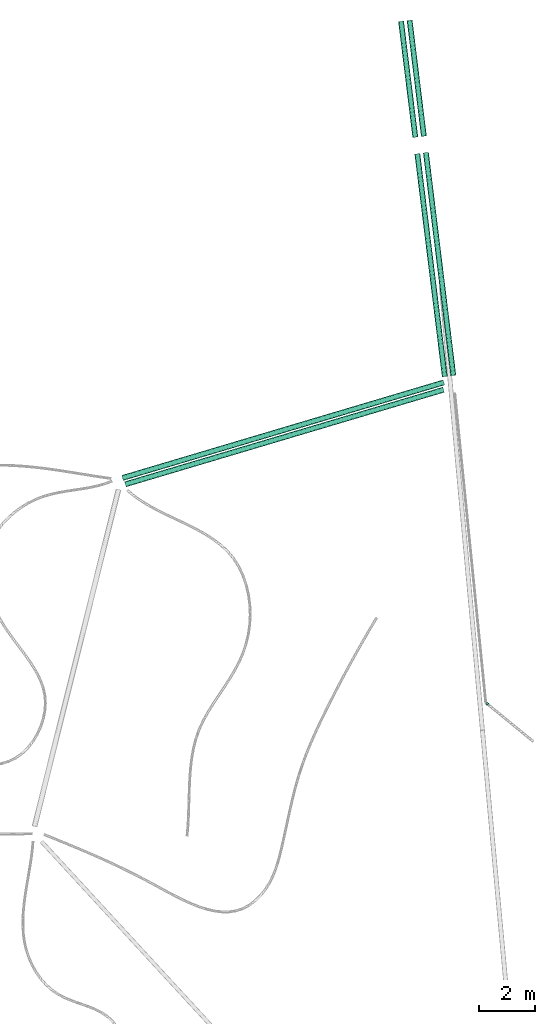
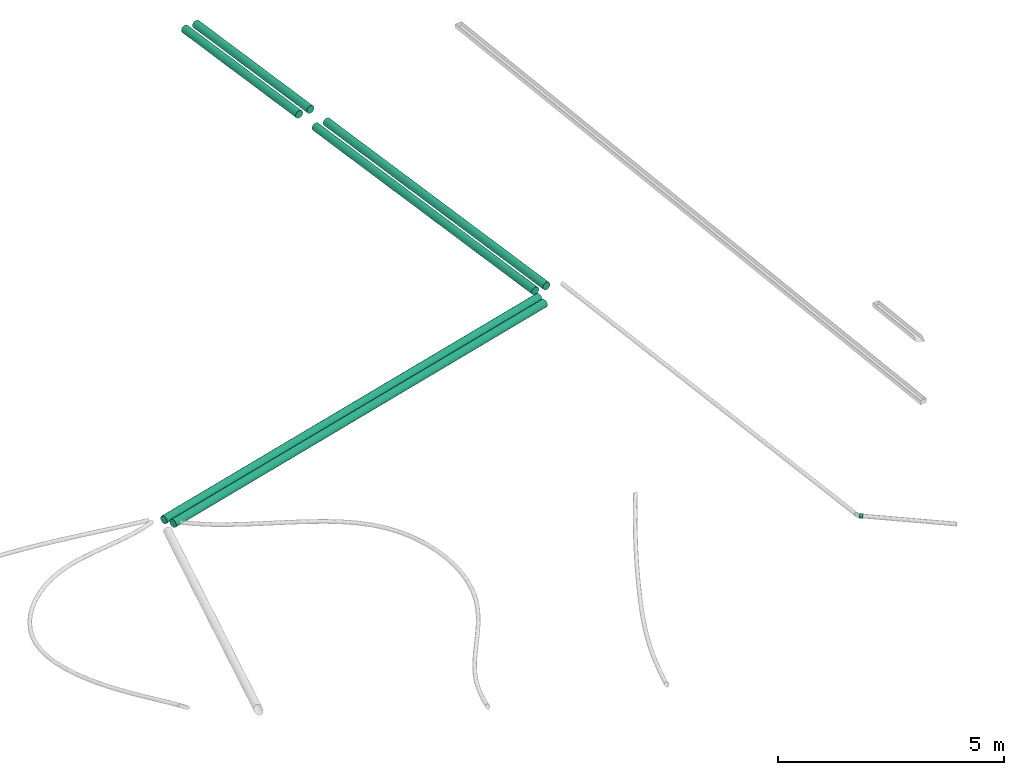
# One storey, part 3 of 8: 6 flow segments, 1 flow fitting.
"""IFC2X3 building model written with IfcOpenShell, lengths in centimetres."""

from ifc_helpers import new_model, entity, si_unit, converted_unit, derived_unit, direction, frame, frame_2d, origin, origin_2d_with_axis, place, context, subcontext, project, spatial, circle, extrude, faceted_brep, source, transform, mapped, material, type_object, type_shapes, element, save


model = new_model("IFC2X3")

# Units and contexts
model_context = context("Model", 3, precision=0.001, world=origin(), true_north=direction((6.12303176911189e-17, 1.0)))
body_context = subcontext(model_context, "Body", "Model", "MODEL_VIEW")
ifc_project = project(units=[si_unit("LENGTHUNIT", "METRE", prefix="CENTI"), si_unit("AREAUNIT", "SQUARE_METRE"), si_unit("VOLUMEUNIT", "CUBIC_METRE"), converted_unit("PLANEANGLEUNIT", "DEGREE", entity("IfcRatioMeasure", 0.0174532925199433), si_unit("PLANEANGLEUNIT", "RADIAN"), dimensions=[0, 0, 0, 0, 0, 0, 0]), si_unit("MASSUNIT", "GRAM", prefix="KILO"), derived_unit("MASSDENSITYUNIT", [(si_unit("MASSUNIT", "GRAM", prefix="KILO"), 1), (si_unit("LENGTHUNIT", "METRE"), -3)]), derived_unit("MOMENTOFINERTIAUNIT", [(si_unit("LENGTHUNIT", "METRE"), 4)]), si_unit("TIMEUNIT", "SECOND"), si_unit("FREQUENCYUNIT", "HERTZ"), si_unit("THERMODYNAMICTEMPERATUREUNIT", "DEGREE_CELSIUS"), derived_unit("THERMALTRANSMITTANCEUNIT", [(si_unit("MASSUNIT", "GRAM", prefix="KILO"), 1), (si_unit("THERMODYNAMICTEMPERATUREUNIT", "KELVIN"), -1), (si_unit("TIMEUNIT", "SECOND"), -3)]), derived_unit("VOLUMETRICFLOWRATEUNIT", [(si_unit("LENGTHUNIT", "METRE"), 3), (si_unit("TIMEUNIT", "SECOND"), -1)]), si_unit("ELECTRICCURRENTUNIT", "AMPERE"), si_unit("ELECTRICVOLTAGEUNIT", "VOLT"), si_unit("POWERUNIT", "WATT"), si_unit("FORCEUNIT", "NEWTON", prefix="KILO"), si_unit("ILLUMINANCEUNIT", "LUX"), si_unit("LUMINOUSFLUXUNIT", "LUMEN"), si_unit("LUMINOUSINTENSITYUNIT", "CANDELA"), derived_unit("USERDEFINED", [(si_unit("MASSUNIT", "GRAM", prefix="KILO"), -1), (si_unit("LENGTHUNIT", "METRE"), -2), (si_unit("TIMEUNIT", "SECOND"), 3), (si_unit("LUMINOUSFLUXUNIT", "LUMEN"), 1)]), derived_unit("LINEARVELOCITYUNIT", [(si_unit("LENGTHUNIT", "METRE"), 1), (si_unit("TIMEUNIT", "SECOND"), -1)]), si_unit("PRESSUREUNIT", "PASCAL"), derived_unit("USERDEFINED", [(si_unit("LENGTHUNIT", "METRE"), -2), (si_unit("MASSUNIT", "GRAM", prefix="KILO"), 1), (si_unit("TIMEUNIT", "SECOND"), -2)]), derived_unit("LINEARFORCEUNIT", [(si_unit("MASSUNIT", "GRAM", prefix="KILO"), 1), (si_unit("LENGTHUNIT", "METRE"), 1), (si_unit("TIMEUNIT", "SECOND"), -2), (si_unit("LENGTHUNIT", "METRE"), -1)]), derived_unit("PLANARFORCEUNIT", [(si_unit("MASSUNIT", "GRAM", prefix="KILO"), 1), (si_unit("LENGTHUNIT", "METRE"), 1), (si_unit("TIMEUNIT", "SECOND"), -2), (si_unit("LENGTHUNIT", "METRE"), -2)])], contexts=[model_context])

# Site, building, storey
site_placement = place(None, origin())
site = spatial("IfcSite", under=ifc_project, at=site_placement, Name="Default", CompositionType="ELEMENT")
building_placement = place(site_placement, origin())
building = spatial("IfcBuilding", under=site, at=building_placement, Name="HIDROSSANITÁRIO", CompositionType="ELEMENT")
storey_placement = place(building_placement, origin())
storey = spatial("IfcBuildingStorey", under=building, at=storey_placement, Name="TERRENO", CompositionType="ELEMENT", Elevation=0.0)

# Flow segments
pipe_segment_type = type_object("IfcPipeSegmentType", Name="Tipos de tubos:Tubo - Esgoto - Série Normal", PredefinedType="NOTDEFINED")
flow_segment_1_placement = place(storey_placement, origin())
element("IfcFlowSegment", 1, at=flow_segment_1_placement, inside=storey, type_object=pipe_segment_type, Name="Tipos de tubos:Tubo - Esgoto - Série Normal", ObjectType="Tipos de tubos:Tubo - Esgoto - Série Normal", context=body_context, shape_type="SweptSolid", body=[
    extrude(circle(Radius=10.0, at=origin_2d_with_axis()), frame((2558.45280378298, 3536.14511064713, -323.0), z_axis=(0.12214631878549, -0.992461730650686, 0.00999950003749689), x_axis=(0.992511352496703, 0.122152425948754, 0.0)), (0.0, 0.0, 1.0), 808.000000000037),
])
flow_segment_2_placement = place(storey_placement, origin())
element("IfcFlowSegment", 2, at=flow_segment_2_placement, inside=storey, type_object=pipe_segment_type, Name="Tipos de tubos:Tubo - Esgoto - Série Normal", ObjectType="Tipos de tubos:Tubo - Esgoto - Série Normal", context=body_context, shape_type="SweptSolid", body=[
    extrude(circle(Radius=10.0, at=origin_2d_with_axis()), frame((2499.89000876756, 4011.9787949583, -327.199902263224), z_axis=(0.12214631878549, -0.992461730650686, 0.00999950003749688), x_axis=(0.992511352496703, 0.122152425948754, 0.0)), (0.0, 0.0, 1.0), 420.011225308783),
])
flow_segment_3_placement = place(storey_placement, origin())
element("IfcFlowSegment", 3, at=flow_segment_3_placement, inside=storey, type_object=pipe_segment_type, Name="Tipos de tubos:Tubo - Esgoto - Série Normal", ObjectType="Tipos de tubos:Tubo - Esgoto - Série Normal", context=body_context, shape_type="SweptSolid", body=[
    extrude(circle(Radius=10.0, at=frame_2d((-4.15185291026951e-13, 1.23433567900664e-15), x_axis=(1.0, 0.0))), frame((2621.80262351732, 2683.23553184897, -317.801430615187), z_axis=(-0.958484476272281, -0.284969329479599, 0.00999950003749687), x_axis=(0.284983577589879, -0.958532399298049, 0.0)), (0.0, 0.0, 1.0), 1194.03595415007),
])
flow_segment_4_placement = place(storey_placement, origin())
element("IfcFlowSegment", 4, at=flow_segment_4_placement, inside=storey, type_object=pipe_segment_type, Name="Tipos de tubos:Tubo - Esgoto - Série Normal", ObjectType="Tipos de tubos:Tubo - Esgoto - Série Normal", context=body_context, shape_type="SweptSolid", body=[
    extrude(circle(Radius=10.0, at=origin_2d_with_axis()), frame((2527.7074177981, 3531.99192816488, -323.0), z_axis=(0.12214631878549, -0.992461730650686, 0.00999950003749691), x_axis=(0.992511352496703, 0.122152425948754, 0.0)), (0.0, 0.0, 1.0), 807.63356104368),
])
flow_segment_5_placement = place(storey_placement, origin())
element("IfcFlowSegment", 5, at=flow_segment_5_placement, inside=storey, type_object=pipe_segment_type, Name="Tipos de tubos:Tubo - Esgoto - Série Normal", ObjectType="Tipos de tubos:Tubo - Esgoto - Série Normal", context=body_context, shape_type="SweptSolid", body=[
    extrude(circle(Radius=10.0, at=origin_2d_with_axis()), frame((2469.09985913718, 4008.18932548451, -327.199902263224), z_axis=(0.12214631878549, -0.992461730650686, 0.00999950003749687), x_axis=(0.992511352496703, 0.122152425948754, 0.0)), (0.0, 0.0, 1.0), 420.011225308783),
])
flow_segment_6_placement = place(storey_placement, origin())
element("IfcFlowSegment", 6, at=flow_segment_6_placement, inside=storey, type_object=pipe_segment_type, Name="Tipos de tubos:Tubo - Esgoto - Série Normal", ObjectType="Tipos de tubos:Tubo - Esgoto - Série Normal", context=body_context, shape_type="SweptSolid", body=[
    extrude(circle(Radius=10.0, at=origin_2d_with_axis()), frame((2623.04480407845, 2709.48692306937, -318.32392144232), z_axis=(-0.958484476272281, -0.284969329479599, 0.00999950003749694), x_axis=(0.284983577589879, -0.958532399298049, 0.0)), (0.0, 0.0, 1.0), 1206.03631549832),
])

# Flow fitting
ifc_material = material(Name="PVC Branco")
pipe_fitting_type = type_object("IfcPipeFittingType", Name="Luva Simples para Conexão - Serie Normal - Esgoto - MEP - Tigre:Standard", PredefinedType="NOTDEFINED", material=ifc_material)
shared_shape = source(origin(), body_context, "Body", "Brep", [
    faceted_brep([(1.77700000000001, 2.8725, -4.9753159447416), (1.77700000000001, 4.06232845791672, -4.06232845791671), (1.77700000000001, 2.65249999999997, -4.59426476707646), (1.77700000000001, 1.37303503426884, -5.12423650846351), (1.77700000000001, 1.48691541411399, -5.5492438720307), (1.77700000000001, 3.75120147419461, -3.75120147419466), (1.77700000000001, 4.9753159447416, -2.8725), (1.77700000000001, 4.59426476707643, -2.65250000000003), (1.77700000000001, 5.1242365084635, -1.37303503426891), (1.77700000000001, 5.5492438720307, -1.48691541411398), (1.77700000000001, 5.305, 0.0), (1.77700000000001, 5.745, 0.0), (1.77700000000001, 5.1242365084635, 1.3730350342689), (1.77700000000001, 5.54924387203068, 1.48691541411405), (1.77700000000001, 4.59426476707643, 2.65250000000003), (1.77700000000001, 4.97531594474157, 2.87250000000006), (1.77700000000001, 3.75120147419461, 3.75120147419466), (1.77700000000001, 4.06232845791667, 4.06232845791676), (1.77700000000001, 2.65249999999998, 4.59426476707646), (1.77700000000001, 2.87249999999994, 4.97531594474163), (1.77700000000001, 1.37303503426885, 5.12423650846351), (1.77700000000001, 1.48691541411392, 5.54924387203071), (1.77700000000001, 0.0, 5.305), (1.77700000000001, 0.0, 5.745), (1.77700000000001, -1.37303503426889, 5.1242365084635), (1.77700000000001, -1.48691541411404, 5.54924387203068), (1.77700000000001, -2.65250000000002, 4.59426476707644), (1.77700000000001, -2.87250000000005, 4.97531594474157), (1.77700000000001, -3.75120147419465, 3.75120147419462), (1.77700000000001, -4.06232845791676, 4.06232845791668), (1.77700000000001, -4.59426476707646, 2.65249999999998), (1.77700000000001, -4.97531594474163, 2.87249999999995), (1.77700000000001, -5.54924387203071, 1.48691541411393), (1.77700000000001, -5.12423650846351, 1.37303503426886), (1.77700000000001, -5.745, 0.0), (1.77700000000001, -5.305, 0.0), (1.77700000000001, -5.54924387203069, -1.486915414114), (1.77700000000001, -5.12423650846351, -1.37303503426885), (1.77700000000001, -4.97531594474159, -2.87250000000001), (1.77700000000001, -4.59426476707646, -2.65249999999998), (1.77700000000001, -4.06232845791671, -4.06232845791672), (1.77700000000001, -3.75120147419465, -3.75120147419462), (1.77700000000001, -2.87249999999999, -4.97531594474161), (1.77700000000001, -2.65250000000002, -4.59426476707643), (1.77700000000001, -1.48691541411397, -5.5492438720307), (1.77700000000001, -1.3730350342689, -5.1242365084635), (1.77700000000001, 0.0, -5.745), (1.77700000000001, 0.0, -5.305), (0.657000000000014, -1.93463887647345, 5.31665771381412), (0.657000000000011, -4.4007619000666, 3.69300957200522), (0.657000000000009, -4.89962626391, 2.82901737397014), (0.657000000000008, -5.39849062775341, 1.96502517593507), (0.657000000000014, -2.87216972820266, 4.97550661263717), (0.657000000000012, -3.63646581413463, 4.3342580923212), (0.657000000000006, -5.5717453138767, 0.982512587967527), (0.657000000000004, -5.745, 0.0), (0.657000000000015, -0.997108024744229, 5.65780881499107), (0.657000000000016, 0.998234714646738, 5.65761013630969), (0.657000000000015, 0.0005633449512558, 5.65770947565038), (0.657000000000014, 3.63732887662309, 4.33353383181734), (0.657000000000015, 1.93569761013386, 5.31627233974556), (0.657000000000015, 2.87316050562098, 4.97493454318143), (0.65700000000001, 5.39888184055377, 1.96395006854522), (0.657000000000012, 4.90018954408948, 2.82804159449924), (0.657000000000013, 4.40149724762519, 3.69213312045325), (0.657000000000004, 5.745, 0.0), (0.656999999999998, 4.40149724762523, -3.6921331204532), (0.657, 4.90018954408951, -2.82804159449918), (0.657000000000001, 5.39888184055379, -1.96395006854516), (0.656999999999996, 2.87316050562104, -4.9749345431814), (0.656999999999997, 3.63732887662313, -4.3335338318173), (0.656999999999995, 1.93569761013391, -5.31627233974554), (0.656999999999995, 0.998234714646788, -5.65761013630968), (0.656999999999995, -0.997108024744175, -5.65780881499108), (0.656999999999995, 0.000563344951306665, -5.65770947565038), (0.656999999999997, -3.6364658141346, -4.33425809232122), (0.656999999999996, -2.87216972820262, -4.9755066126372), (0.656999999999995, -1.9346388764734, -5.31665771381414), (0.657000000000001, -5.39849062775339, -1.96502517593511), (0.657, -4.89962626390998, -2.82901737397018), (0.656999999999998, -4.40076190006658, -3.69300957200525), (0.657000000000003, -5.5717453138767, -0.982512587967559), (8.35200000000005, 2.6525, -4.59426476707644), (8.35200000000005, 3.75120147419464, -3.75120147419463), (8.35200000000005, 2.49999999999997, -4.33012701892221), (8.35200000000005, 1.29409522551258, -4.82962913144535), (8.35200000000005, 1.37303503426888, -5.1242365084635), (8.35200000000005, 3.53553390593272, -3.53553390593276), (8.35200000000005, 4.59426476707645, -2.6525), (8.35200000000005, 4.33012701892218, -2.50000000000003), (8.35200000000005, 4.82962913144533, -1.29409522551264), (8.35200000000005, 5.12423650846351, -1.37303503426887), (8.35200000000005, 5.0, 0.0), (8.35200000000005, 5.305, 0.0), (8.35200000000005, 4.82962913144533, 1.29409522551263), (8.35200000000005, 5.12423650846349, 1.37303503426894), (8.35200000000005, 4.33012701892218, 2.50000000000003), (8.35200000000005, 4.59426476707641, 2.65250000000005), (8.35200000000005, 3.53553390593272, 3.53553390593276), (8.35200000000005, 3.75120147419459, 3.75120147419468), (8.35200000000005, 2.49999999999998, 4.33012701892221), (8.35200000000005, 2.65249999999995, 4.59426476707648), (8.35200000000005, 1.29409522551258, 4.82962913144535), (8.35200000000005, 1.37303503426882, 5.12423650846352), (8.35200000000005, 0.0, 5.0), (8.35200000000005, 0.0, 5.305), (8.35200000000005, -1.29409522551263, 4.82962913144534), (8.35200000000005, -1.37303503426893, 5.12423650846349), (8.35200000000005, -2.50000000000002, 4.33012701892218), (8.35200000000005, -2.65250000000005, 4.59426476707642), (8.35200000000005, -3.53553390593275, 3.53553390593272), (8.35200000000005, -3.75120147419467, 3.7512014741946), (8.35200000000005, -4.3301270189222, 2.49999999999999), (8.35200000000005, -4.59426476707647, 2.65249999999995), (8.35200000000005, -5.12423650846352, 1.37303503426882), (8.35200000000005, -4.82962913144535, 1.29409522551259), (8.35200000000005, -5.305, 0.0), (8.35200000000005, -5.0, 0.0), (8.35200000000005, -5.1242365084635, -1.37303503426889), (8.35200000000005, -4.82962913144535, -1.29409522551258), (8.35200000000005, -4.59426476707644, -2.65250000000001), (8.35200000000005, -4.3301270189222, -2.49999999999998), (8.35200000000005, -3.75120147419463, -3.75120147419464), (8.35200000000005, -3.53553390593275, -3.53553390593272), (8.35200000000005, -2.65249999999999, -4.59426476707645), (8.35200000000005, -2.50000000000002, -4.33012701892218), (8.35200000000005, -1.37303503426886, -5.12423650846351), (8.35200000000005, -1.29409522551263, -4.82962913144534), (8.35200000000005, 0.0, -5.305), (8.35200000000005, 0.0, -5.0), (0.0, 2.49999999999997, -4.33012701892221), (0.0, 3.75120147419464, -3.75120147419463), (0.0, 2.6525, -4.59426476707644), (0.0, 1.29409522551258, -4.82962913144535), (0.0, 3.53553390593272, -3.53553390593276), (0.0, 4.59426476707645, -2.6525), (0.0, 4.33012701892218, -2.50000000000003), (0.0, 4.82962913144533, -1.29409522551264), (0.0, 5.12423650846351, -1.37303503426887), (0.0, 5.0, 0.0), (0.0, 5.305, 0.0), (0.0, 4.82962913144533, 1.29409522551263), (0.0, 5.12423650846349, 1.37303503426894), (0.0, 4.33012701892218, 2.50000000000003), (0.0, 4.59426476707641, 2.65250000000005), (0.0, 3.53553390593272, 3.53553390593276), (0.0, 3.75120147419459, 3.75120147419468), (0.0, 2.49999999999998, 4.33012701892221), (0.0, 2.65249999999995, 4.59426476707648), (0.0, 1.29409522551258, 4.82962913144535), (0.0, 1.37303503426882, 5.12423650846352), (0.0, 0.0, 5.0), (0.0, 0.0, 5.305), (0.0, -1.29409522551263, 4.82962913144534), (0.0, -1.37303503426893, 5.12423650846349), (0.0, -2.50000000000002, 4.33012701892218), (0.0, -2.65250000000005, 4.59426476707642), (0.0, -3.53553390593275, 3.53553390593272), (0.0, -3.75120147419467, 3.7512014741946), (0.0, -4.3301270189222, 2.49999999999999), (0.0, -4.59426476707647, 2.65249999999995), (0.0, -5.12423650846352, 1.37303503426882), (0.0, -4.82962913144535, 1.29409522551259), (0.0, -5.305, 0.0), (0.0, -5.0, 0.0), (0.0, -5.1242365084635, -1.37303503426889), (0.0, -4.82962913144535, -1.29409522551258), (0.0, -4.59426476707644, -2.65250000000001), (0.0, -4.3301270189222, -2.49999999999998), (0.0, -3.75120147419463, -3.75120147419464), (0.0, -3.53553390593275, -3.53553390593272), (0.0, -2.65249999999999, -4.59426476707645), (0.0, -2.50000000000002, -4.33012701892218), (0.0, -1.37303503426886, -5.12423650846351), (0.0, -1.29409522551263, -4.82962913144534), (0.0, 0.0, -5.305), (0.0, 0.0, -5.0), (0.0, 1.37303503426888, -5.1242365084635), (0.537000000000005, -5.305, 0.0), (0.537000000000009, -4.98507989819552, 1.81438788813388), (0.537000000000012, -4.06390540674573, 3.4099410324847), (0.537000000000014, -2.65258010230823, 4.59421851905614), (0.537000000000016, -0.921325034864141, 5.22438371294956), (0.537000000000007, 5.1449924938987, 0.907324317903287), (0.537000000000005, 5.305, 0.0), (0.537000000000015, 2.65233979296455, 4.59435725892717), (0.537000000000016, 0.921051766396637, 5.22443189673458), (0.537000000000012, 4.06372704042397, 3.41015359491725), (0.537000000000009, 4.9849849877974, 1.81464863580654), (0.537000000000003, 5.14499249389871, -0.907324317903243), (0.537000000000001, 4.98498498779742, -1.81464863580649), (0.536999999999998, 4.063727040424, -3.41015359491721), (0.536999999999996, 2.6523397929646, -4.59435725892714), (0.536999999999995, 0.921051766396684, -5.22443189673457), (0.536999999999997, -2.6525801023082, -4.59421851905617), (0.536999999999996, -0.921325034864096, -5.22438371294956), (0.536999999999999, -4.0639054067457, -3.40994103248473), (0.537000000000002, -4.98507989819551, -1.81438788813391), (5.0, -5.0, 0.0), (5.0, 5.0, 0.0)], [[[0, 1, 2]], [[0, 2, 3]], [[3, 4, 0]], [[2, 1, 5]], [[6, 5, 1]], [[5, 6, 7]], [[7, 6, 8]], [[9, 8, 6]], [[9, 10, 8]], [[10, 9, 11]], [[12, 10, 11]], [[11, 13, 12]], [[12, 13, 14]], [[15, 14, 13]], [[14, 15, 16]], [[16, 15, 17]], [[18, 16, 17]], [[17, 19, 18]], [[18, 19, 20]], [[21, 20, 19]], [[20, 21, 22]], [[22, 21, 23]], [[22, 23, 24]], [[24, 23, 25]], [[24, 25, 26]], [[27, 26, 25]], [[27, 28, 26]], [[28, 27, 29]], [[29, 30, 28]], [[31, 30, 29]], [[30, 31, 32]], [[32, 33, 30]], [[34, 33, 32]], [[34, 35, 33]], [[36, 35, 34]], [[36, 37, 35]], [[37, 36, 38]], [[38, 39, 37]], [[39, 38, 40]], [[39, 40, 41]], [[40, 42, 41]], [[41, 42, 43]], [[43, 42, 44]], [[44, 45, 43]], [[46, 45, 44]], [[4, 47, 46]], [[46, 47, 45]], [[4, 3, 47]], [[48, 27, 25]], [[31, 29, 49]], [[31, 49, 50, 51]], [[52, 53, 27]], [[32, 51, 54]], [[54, 55, 34]], [[54, 34, 32]], [[25, 56, 48]], [[49, 29, 53]], [[23, 57, 58, 56]], [[59, 19, 17]], [[27, 53, 29]], [[48, 52, 27]], [[31, 51, 32]], [[57, 23, 21]], [[60, 19, 61]], [[15, 62, 63, 64]], [[19, 60, 21]], [[15, 13, 62]], [[17, 64, 59]], [[57, 21, 60]], [[23, 56, 25]], [[15, 64, 17]], [[13, 65, 62]], [[13, 11, 65]], [[59, 61, 19]], [[65, 11, 9]], [[6, 1, 66]], [[6, 66, 67, 68]], [[69, 70, 0]], [[68, 65, 9]], [[71, 69, 0]], [[71, 0, 4]], [[4, 72, 71]], [[66, 1, 70]], [[46, 73, 74, 72]], [[75, 76, 42]], [[0, 70, 1]], [[75, 42, 40]], [[6, 68, 9]], [[73, 46, 44]], [[77, 42, 76]], [[38, 78, 79, 80]], [[42, 77, 44]], [[38, 36, 78]], [[40, 80, 75]], [[73, 44, 77]], [[46, 72, 4]], [[38, 80, 40]], [[81, 78, 36]], [[55, 81, 34]], [[34, 81, 36]], [[82, 83, 84]], [[82, 84, 85]], [[85, 86, 82]], [[84, 83, 87]], [[88, 87, 83]], [[87, 88, 89]], [[89, 88, 90]], [[91, 90, 88]], [[91, 92, 90]], [[92, 91, 93]], [[94, 92, 93]], [[93, 95, 94]], [[94, 95, 96]], [[97, 96, 95]], [[96, 97, 98]], [[98, 97, 99]], [[100, 98, 99]], [[99, 101, 100]], [[100, 101, 102]], [[103, 102, 101]], [[102, 103, 104]], [[104, 103, 105]], [[104, 105, 106]], [[106, 105, 107]], [[106, 107, 108]], [[109, 108, 107]], [[110, 108, 109]], [[110, 109, 111]], [[111, 112, 110]], [[113, 112, 111]], [[112, 113, 114]], [[114, 115, 112]], [[116, 115, 114]], [[116, 117, 115]], [[118, 117, 116]], [[118, 119, 117]], [[119, 118, 120]], [[120, 121, 119]], [[121, 120, 122]], [[121, 122, 123]], [[122, 124, 123]], [[125, 123, 124]], [[125, 124, 126]], [[126, 127, 125]], [[128, 127, 126]], [[86, 129, 128]], [[128, 129, 127]], [[86, 85, 129]], [[130, 131, 132]], [[133, 130, 132]], [[134, 131, 130]], [[131, 134, 135]], [[136, 135, 134]], [[137, 135, 136]], [[135, 137, 138]], [[137, 139, 138]], [[140, 138, 139]], [[140, 139, 141]], [[141, 142, 140]], [[143, 142, 141]], [[142, 143, 144]], [[145, 144, 143]], [[146, 144, 145]], [[146, 145, 147]], [[147, 148, 146]], [[149, 148, 147]], [[148, 149, 150]], [[151, 150, 149]], [[152, 150, 151]], [[153, 152, 151]], [[154, 152, 153]], [[155, 154, 153]], [[154, 155, 156]], [[156, 155, 157]], [[158, 156, 157]], [[157, 159, 158]], [[158, 159, 160]], [[161, 160, 159]], [[159, 162, 161]], [[161, 162, 163]], [[162, 164, 163]], [[163, 164, 165]], [[164, 166, 165]], [[167, 165, 166]], [[166, 168, 167]], [[169, 167, 168]], [[170, 169, 168]], [[170, 171, 169]], [[171, 170, 172]], [[173, 171, 172]], [[172, 174, 173]], [[173, 174, 175]], [[174, 176, 175]], [[176, 133, 177]], [[175, 176, 177]], [[132, 177, 133]], [[161, 178, 179]], [[158, 180, 181]], [[179, 180, 160]], [[181, 182, 154]], [[179, 160, 161]], [[161, 163, 178]], [[35, 116, 114, 33]], [[183, 184, 140]], [[181, 156, 158]], [[158, 160, 180]], [[181, 154, 156]], [[182, 152, 154]], [[183, 140, 142]], [[185, 150, 186]], [[187, 146, 185]], [[142, 188, 183]], [[187, 188, 144]], [[185, 148, 150]], [[150, 152, 186]], [[187, 144, 146]], [[146, 148, 185]], [[188, 142, 144]], [[186, 152, 182]], [[189, 190, 138]], [[131, 191, 192]], [[190, 191, 135]], [[192, 193, 177]], [[190, 135, 138]], [[184, 189, 140]], [[192, 132, 131]], [[131, 135, 191]], [[192, 177, 132]], [[193, 175, 177]], [[140, 189, 138]], [[194, 173, 195]], [[196, 169, 194]], [[165, 197, 178]], [[196, 197, 167]], [[165, 178, 163]], [[35, 37, 118, 116]], [[194, 171, 173]], [[173, 175, 195]], [[196, 167, 169]], [[169, 171, 194]], [[197, 165, 167]], [[195, 175, 193]], [[115, 117, 198, 164, 162]], [[155, 108, 110, 157]], [[110, 112, 159, 157]], [[112, 115, 162, 159]], [[106, 108, 155, 153]], [[153, 151, 104, 106]], [[102, 104, 151, 149]], [[102, 149, 147, 100]], [[141, 94, 96, 143]], [[96, 98, 145, 143]], [[98, 100, 147, 145]], [[92, 94, 141, 139, 199]], [[199, 139, 137, 90, 92]], [[87, 89, 136, 134]], [[134, 130, 84, 87]], [[89, 90, 137, 136]], [[85, 84, 130, 133]], [[133, 176, 129, 85]], [[127, 129, 176, 174]], [[127, 174, 172, 125]], [[166, 119, 121, 168]], [[121, 123, 170, 168]], [[123, 125, 172, 170]], [[117, 119, 166, 164, 198]], [[81, 178, 197]], [[190, 68, 67]], [[194, 75, 196]], [[193, 72, 74]], [[195, 77, 194]], [[79, 197, 196]], [[81, 55, 178]], [[192, 69, 71]], [[79, 78, 197]], [[194, 77, 76]], [[191, 66, 70]], [[80, 196, 75]], [[68, 190, 189]], [[74, 195, 193]], [[192, 71, 193]], [[190, 67, 191]], [[70, 192, 191]], [[65, 189, 184]], [[195, 73, 77]], [[193, 71, 72]], [[197, 78, 81]], [[191, 67, 66]], [[189, 65, 68]], [[196, 80, 79]], [[70, 69, 192]], [[194, 76, 75]], [[73, 195, 74]], [[65, 183, 62]], [[48, 56, 182]], [[58, 182, 56]], [[54, 51, 179]], [[59, 185, 61]], [[60, 186, 57]], [[53, 52, 181]], [[63, 187, 64]], [[58, 57, 186]], [[187, 63, 188]], [[186, 60, 185]], [[50, 49, 180]], [[185, 59, 187]], [[59, 64, 187]], [[182, 58, 186]], [[50, 179, 51]], [[54, 178, 55]], [[53, 180, 49]], [[63, 62, 188]], [[181, 48, 182]], [[183, 65, 184]], [[179, 50, 180]], [[178, 54, 179]], [[183, 188, 62]], [[180, 53, 181]], [[60, 61, 185]], [[48, 181, 52]], [[30, 33, 114, 113]], [[26, 28, 111, 109]], [[113, 111, 28, 30]], [[107, 24, 26, 109]], [[107, 105, 22, 24]], [[18, 20, 103, 101]], [[99, 16, 18, 101]], [[12, 14, 97, 95]], [[99, 97, 14, 16]], [[10, 12, 95, 93]], [[103, 20, 22, 105]], [[91, 8, 10, 93]], [[88, 7, 8, 91]], [[82, 86, 3, 2]], [[83, 5, 7, 88]], [[2, 5, 83, 82]], [[86, 128, 47, 3]], [[43, 45, 126, 124]], [[122, 41, 43, 124]], [[37, 39, 120, 118]], [[122, 120, 39, 41]], [[126, 45, 47, 128]]]),
])
type_shapes(pipe_fitting_type, [shared_shape])
flow_fitting_placement = place(storey_placement, frame((2775.83699579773, 1555.85313493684, -262.234443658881), z_axis=(-0.00511081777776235, 0.00946581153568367, 0.999942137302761), x_axis=(0.77389201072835, -0.633239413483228, 0.00994992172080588)))
element("IfcFlowFitting", 7, at=flow_fitting_placement, inside=storey, type_object=pipe_fitting_type, material=ifc_material, Name="Luva Simples para Conexão - Serie Normal - Esgoto - MEP - Tigre:Standard", ObjectType="Luva Simples para Conexão - Serie Normal - Esgoto - MEP - Tigre:Standard", context=body_context, shape_type="MappedRepresentation", body=[
    mapped(shared_shape, transform((0.0, 0.0, 0.0), scale=1.0)),
])

save(model, "model.ifc")
